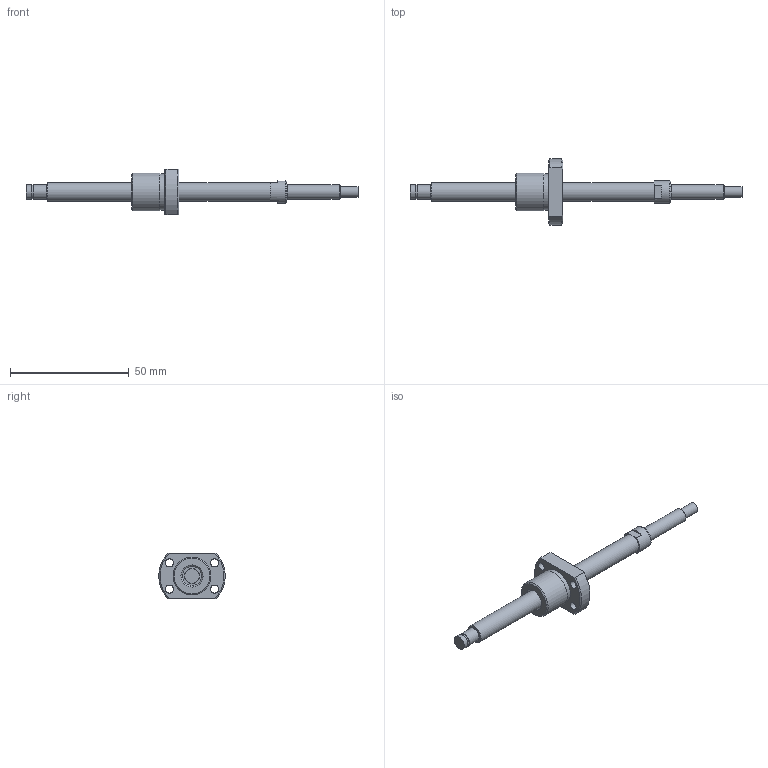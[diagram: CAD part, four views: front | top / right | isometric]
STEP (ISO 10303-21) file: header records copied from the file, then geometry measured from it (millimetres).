
FILE_DESCRIPTION(/* description */ ('STEP AP214'),/* implementation_level */ '2;1');
FILE_NAME(/* name */ 'NSGF0801Z-091R140C3-0-T-S-T-B-(35.5-S)',/* time_stamp */ '2026-08-24T20:09:42+02:00',/* author */ ('License CC BY-ND 4.0'),/* organization */ ('CADENAS'),/* preprocessor_version */ 'ST-DEVELOPER v20',/* originating_system */ 'PARTsolutions',/* authorisation */ ' ');
FILE_SCHEMA (('AUTOMOTIVE_DESIGN {1 0 10303 214 3 1 1}'));
Length unit declared in the file: millimetre
Products named in the file (3): NSGF0801Z-091R140C3-0-T-S-T-B-(35.5-S); NSG0801Z-91R14022_(T-S_T-B_2)-2; NSGF0801Z-1
Assembly tree (2 placements, depth 2):
  NSGF0801Z-091R140C3-0-T-S-T-B-(35.5-S)
    NSG0801Z-91R14022_(T-S_T-B_2)-2
    NSGF0801Z-1
Bounding box: 140 x 27.9 x 19 mm (x, y, z)
Volume: 10185 mm3; surface area: 6228.7 mm2
Topology: 2 solids, 2 shells, 47 faces, 99 edges, 64 vertices
Faces by surface type: plane 20, cylinder 17, cone 8, torus 2
Full cylindrical faces by diameter (mm): 3.4 x4, 4.5 x1, 5.7 x1, 6 x3, 8 x2, 9.5 x1, 13 x1, 15.5 x1, 16 x1
Entity records: 1235 total; most frequent: DIRECTION 214, CARTESIAN_POINT 208, ORIENTED_EDGE 148, AXIS2_PLACEMENT_3D 98, EDGE_LOOP 86, FACE_BOUND 86, EDGE_CURVE 74, VERTEX_POINT 60
